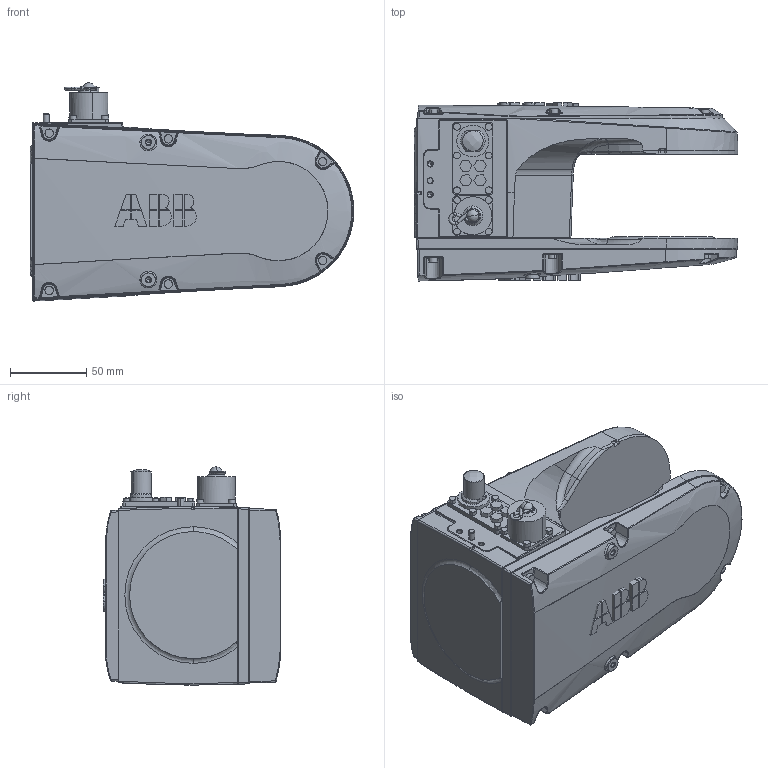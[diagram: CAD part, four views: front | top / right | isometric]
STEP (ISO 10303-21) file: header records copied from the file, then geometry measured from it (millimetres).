
FILE_DESCRIPTION (( 'STEP AP203' ), '1' );
FILE_NAME ('tubular_(900).STEP', '2014-05-15T07:37:46', ( 'ABB' ), ( 'ABB' ), 'SwSTEP 2.0', 'SolidWorks 2012', '' );
FILE_SCHEMA (( 'CONFIG_CONTROL_DESIGN' ));
Products named in the file (1): tubular_(900)
Bounding box: 212.01 x 116.47 x 142.84 mm (x, y, z)
Volume: 1664556.7 mm3; surface area: 127690.5 mm2
Topology: 26 solids, 28 shells, 883 faces, 2061 edges, 1257 vertices
Faces by surface type: plane 305, bspline 252, cylinder 192, cone 57, torus 50, sphere 27
Entity records: 37184 total; most frequent: CARTESIAN_POINT 18793, ORIENTED_EDGE 4082, DIRECTION 3422, EDGE_CURVE 2041, AXIS2_PLACEMENT_3D 1312, VERTEX_POINT 1257, EDGE_LOOP 926, FACE_OUTER_BOUND 883
